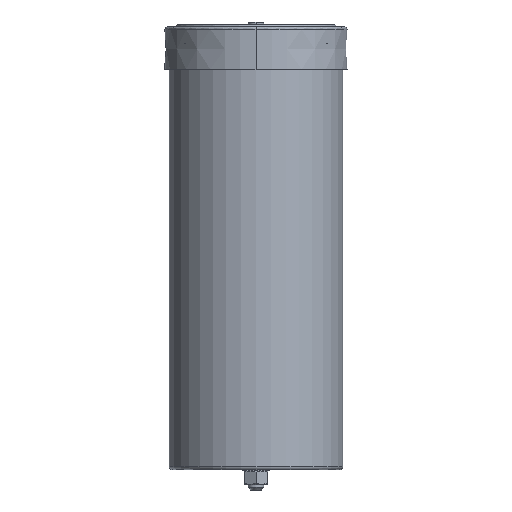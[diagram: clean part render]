
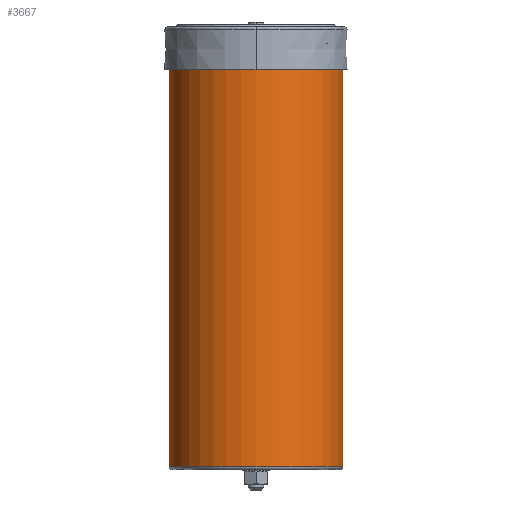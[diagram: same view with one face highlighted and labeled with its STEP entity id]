
A CAD part, left-side view. The second image highlights one B-rep face of the part: STEP entity #3667.
In plain terms, the highlighted cylindrical face has radius 68 mm (diameter 136 mm), a partial arc.
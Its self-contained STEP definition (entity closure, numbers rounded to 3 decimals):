
#2447 = CIRCLE ( 'NONE', #3481, 68. ) ;
#3481 = AXIS2_PLACEMENT_3D ( 'NONE', #16204, #24746, #17895 ) ;
#3667 = ADVANCED_FACE ( 'NONE', ( #9123 ), #8443, .T. ) ;
#4323 = CARTESIAN_POINT ( 'NONE',  ( 0., 0., -339. ) ) ;
#4397 = CIRCLE ( 'NONE', #27236, 68. ) ;
#4510 = DIRECTION ( 'NONE',  ( 0., -1., 0. ) ) ;
#4740 = DIRECTION ( 'NONE',  ( 0., 1., 0. ) ) ;
#6155 = EDGE_CURVE ( 'NONE', #10141, #15718, #21794, .T. ) ;
#6934 = DIRECTION ( 'NONE',  ( 0., 0., -1. ) ) ;
#6942 = LINE ( 'NONE', #17651, #15373 ) ;
#6958 = CARTESIAN_POINT ( 'NONE',  ( 0., 0., -341. ) ) ;
#8317 = EDGE_CURVE ( 'NONE', #18664, #15127, #6942, .T. ) ;
#8443 = CYLINDRICAL_SURFACE ( 'NONE', #20126, 68. ) ;
#9116 = CARTESIAN_POINT ( 'NONE',  ( 0., -68., -339. ) ) ;
#9123 = FACE_OUTER_BOUND ( 'NONE', #13640, .T. ) ;
#9632 = CARTESIAN_POINT ( 'NONE',  ( 0., -68., 0.9 ) ) ;
#10124 = EDGE_CURVE ( 'NONE', #15718, #18664, #2447, .T. ) ;
#10141 = VERTEX_POINT ( 'NONE', #9632 ) ;
#11257 = DIRECTION ( 'NONE',  ( 0., 0., -1. ) ) ;
#13009 = ORIENTED_EDGE ( 'NONE', *, *, #25120, .F. ) ;
#13640 = EDGE_LOOP ( 'NONE', ( #19761, #18807, #26704, #17772, #13009 ) ) ;
#15127 = VERTEX_POINT ( 'NONE', #21750 ) ;
#15373 = VECTOR ( 'NONE', #19798, 1000. ) ;
#15552 = DIRECTION ( 'NONE',  ( 0., 0., -1. ) ) ;
#15718 = VERTEX_POINT ( 'NONE', #17693 ) ;
#16204 = CARTESIAN_POINT ( 'NONE',  ( 0., 0., 0.9 ) ) ;
#17651 = CARTESIAN_POINT ( 'NONE',  ( 0., 68., -341. ) ) ;
#17693 = CARTESIAN_POINT ( 'NONE',  ( -68., 0., 0.9 ) ) ;
#17772 = ORIENTED_EDGE ( 'NONE', *, *, #22757, .T. ) ;
#17895 = DIRECTION ( 'NONE',  ( 0., 1., 0. ) ) ;
#18664 = VERTEX_POINT ( 'NONE', #21240 ) ;
#18807 = ORIENTED_EDGE ( 'NONE', *, *, #10124, .T. ) ;
#19761 = ORIENTED_EDGE ( 'NONE', *, *, #6155, .T. ) ;
#19798 = DIRECTION ( 'NONE',  ( 0., 0., -1. ) ) ;
#20046 = CARTESIAN_POINT ( 'NONE',  ( 0., 0., 0.9 ) ) ;
#20126 = AXIS2_PLACEMENT_3D ( 'NONE', #6958, #11257, #21960 ) ;
#20716 = LINE ( 'NONE', #26245, #21401 ) ;
#21240 = CARTESIAN_POINT ( 'NONE',  ( 0., 68., 0.9 ) ) ;
#21401 = VECTOR ( 'NONE', #15552, 1000. ) ;
#21646 = VERTEX_POINT ( 'NONE', #9116 ) ;
#21750 = CARTESIAN_POINT ( 'NONE',  ( 0., 68., -339. ) ) ;
#21794 = CIRCLE ( 'NONE', #26327, 68. ) ;
#21960 = DIRECTION ( 'NONE',  ( 0., -1., 0. ) ) ;
#22757 = EDGE_CURVE ( 'NONE', #15127, #21646, #4397, .T. ) ;
#23697 = DIRECTION ( 'NONE',  ( 0., 0., 1. ) ) ;
#24746 = DIRECTION ( 'NONE',  ( 0., 0., -1. ) ) ;
#25120 = EDGE_CURVE ( 'NONE', #10141, #21646, #20716, .T. ) ;
#26245 = CARTESIAN_POINT ( 'NONE',  ( 0., -68., -341. ) ) ;
#26327 = AXIS2_PLACEMENT_3D ( 'NONE', #20046, #6934, #4740 ) ;
#26704 = ORIENTED_EDGE ( 'NONE', *, *, #8317, .T. ) ;
#27236 = AXIS2_PLACEMENT_3D ( 'NONE', #4323, #23697, #4510 ) ;
